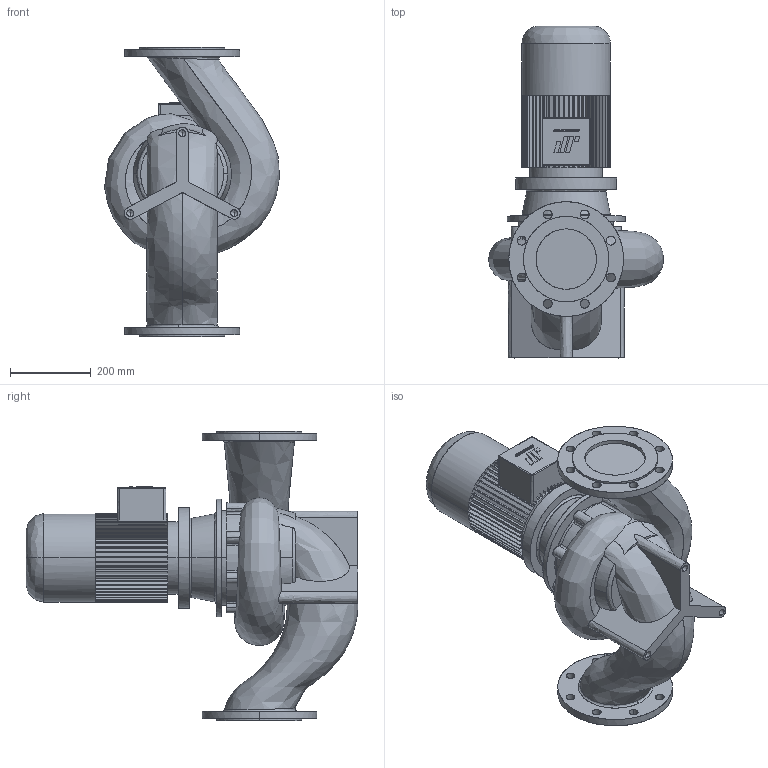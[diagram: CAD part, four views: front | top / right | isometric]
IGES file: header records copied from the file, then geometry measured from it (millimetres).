
Start section: CombiLine
Global section: file name: CLB_150-200_IEC112M_ND10.igs; native system:  By UGS Corp.; preprocessor: XPlus GENERIC/IGES 3.0; author: Stageplaats; organization: Johnson Pump Water B.V.; date: 20070717.142737; units: millimetre
Bounding box: 434.7 x 824.5 x 720 mm (x, y, z)
Surface area: 1692019.6 mm2 (no closed solid volume)
Topology: 0 solids, 0 shells, 566 faces, 3445 edges, 3439 vertices
Faces by surface type: bspline 566
